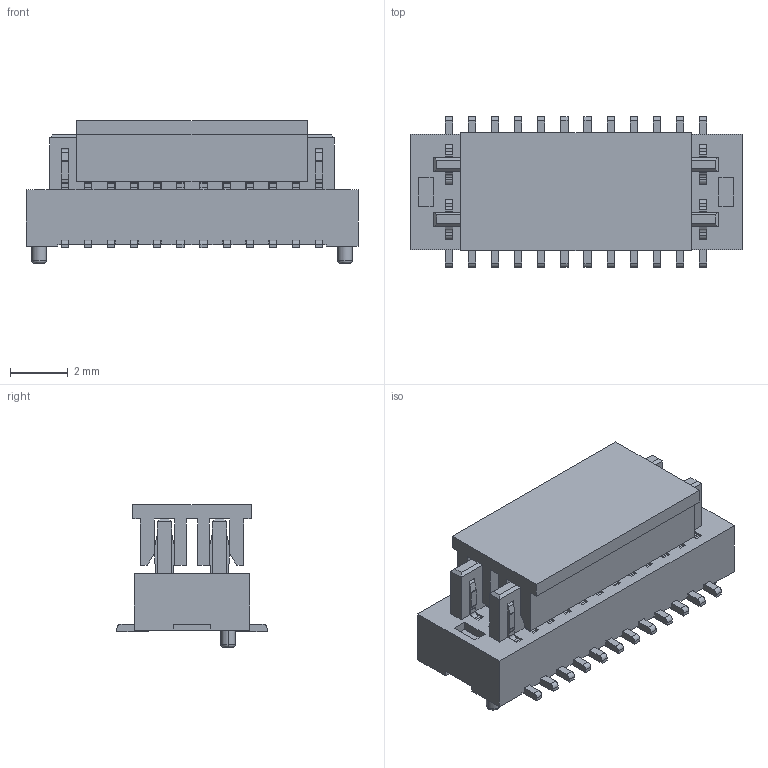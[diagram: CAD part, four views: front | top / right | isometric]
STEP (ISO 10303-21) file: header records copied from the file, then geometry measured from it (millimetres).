
FILE_DESCRIPTION (( 'STEP AP203' ), '1' );
FILE_NAME ('HC-PBB08-2-24-M-H2.0-G1-R-P-04(BTB0.8 双槽 公座 立贴 带柱 编带+盖)-HCTL.STEP', '2025-12-11T01:42:45', ( '' ), ( '' ), 'SwSTEP 2.0', 'SolidWorks 2025', '' );
FILE_SCHEMA (( 'CONFIG_CONTROL_DESIGN' ));
Length unit declared in the file: millimetre
Products named in the file (1): HC-PBB08-2-24-M-H2.0-G1-R-P-04(BTB0.8 双槽 公座 立贴 带柱 编带+盖)-HCTL
Bounding box: 11.5 x 5.2 x 4.95 mm (x, y, z)
Volume: 144.3 mm3; surface area: 774 mm2
Topology: 2 solids, 2 shells, 1448 faces, 4614 edges, 3008 vertices
Faces by surface type: plane 960, cylinder 484, torus 4
Entity records: 51117 total; most frequent: CARTESIAN_POINT 9359, ORIENTED_EDGE 9228, DIRECTION 8392, EDGE_CURVE 4614, LINE 3542, VECTOR 3542, VERTEX_POINT 3008, AXIS2_PLACEMENT_3D 2425
